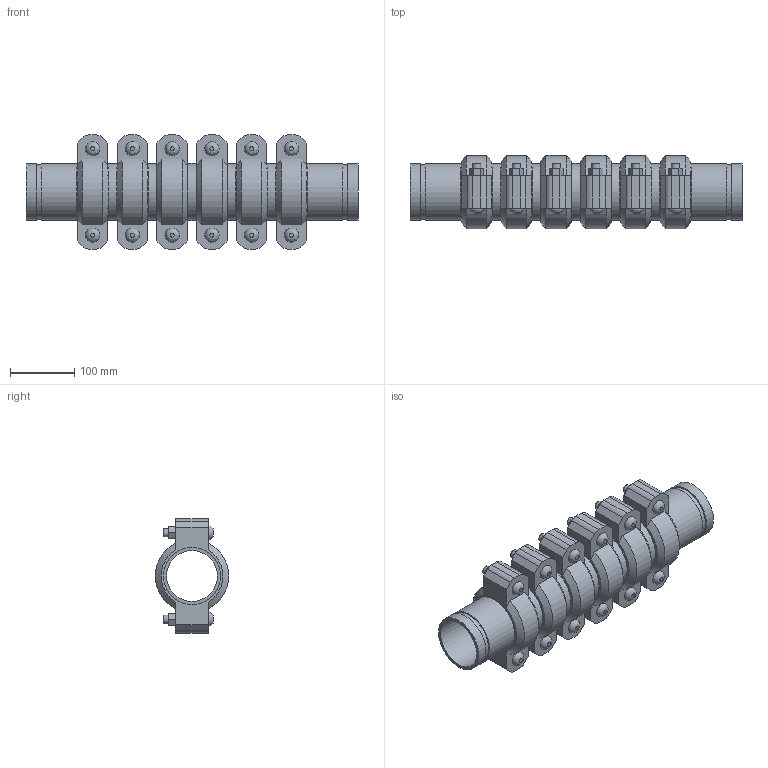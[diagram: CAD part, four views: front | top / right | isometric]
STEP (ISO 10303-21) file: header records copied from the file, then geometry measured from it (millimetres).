
FILE_DESCRIPTION(/* description */ ('VIC EXPANSION JOINT 6 COUPLINGS EXPANDED STYLE 155 (OGS)','CAx-IF Rec.Pracs.---Representation and Presentation of Product Manufacturing Information (PMI)---4.0---2014-10-13'),/* implementation_level */ '2;1');
FILE_NAME(/* name */ 'C:\Users\kkamble\AppData\Roaming\Autodesk\ApplicationPlugins\Victaulic.Temp\A6\Victaulic_IPS_Expansion Joint_Expanded_6 Couplings_Style 155 (OGS)_3 (80).stp',/* time_stamp */ '2021-06-27T00:04:40+02:00',/* author */ ('kkamble'),/* organization */ ('Victaulic'),/* preprocessor_version */ 'ST-DEVELOPER v17.2',/* originating_system */ 'Autodesk Inventor 2019',/* authorisation */ '');
FILE_SCHEMA (('AP242_MANAGED_MODEL_BASED_3D_ENGINEERING_MIM_LF { 1 0 10303 442 1 1 4 }'));
Length unit declared in the file: inch
Products named in the file (4): 155-03.0; Nipple-03.0; Nipple-03.0_1; 075-03.0
Assembly tree (13 placements, depth 2):
  155-03.0
    Nipple-03.0  x2
    Nipple-03.0_1  x5
    075-03.0  x6
Bounding box: 517.4 x 113.88 x 177.8 mm (x, y, z)
Volume: 2582373.9 mm3; surface area: 666207.5 mm2
Topology: 13 solids, 25 shells, 426 faces, 1008 edges, 708 vertices
Faces by surface type: plane 258, cylinder 132, cone 24, bspline 12
Full cylindrical faces by diameter (mm): 12.7 x24, 14.605 x12, 79.35 x7, 82.55 x6, 84.938 x14, 88.9 x33
Entity records: 2817 total; most frequent: CARTESIAN_POINT 497, DIRECTION 469, ORIENTED_EDGE 386, EDGE_CURVE 193, AXIS2_PLACEMENT_3D 188, VERTEX_POINT 138, EDGE_LOOP 107, LINE 93
